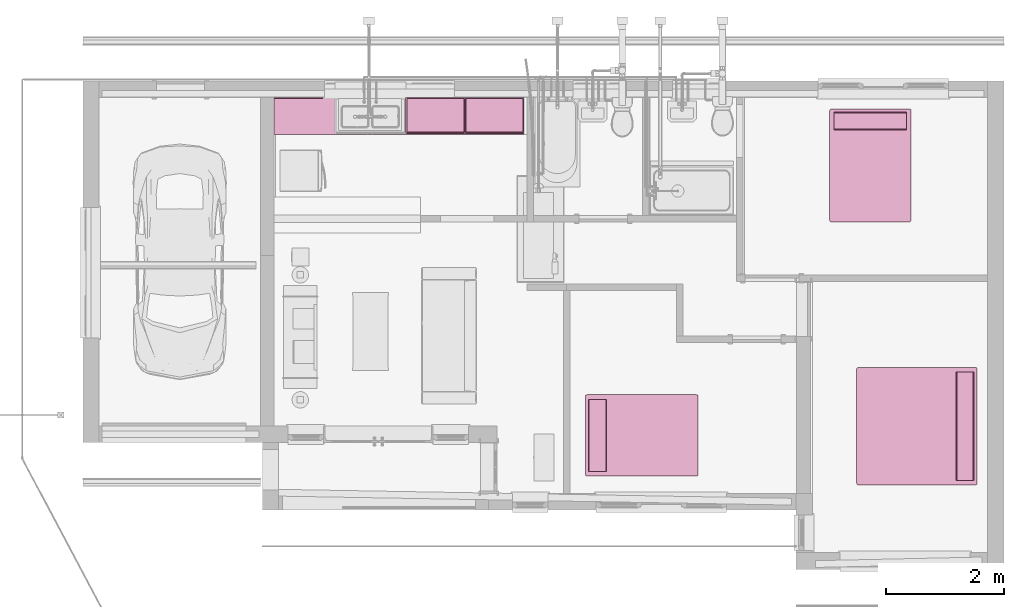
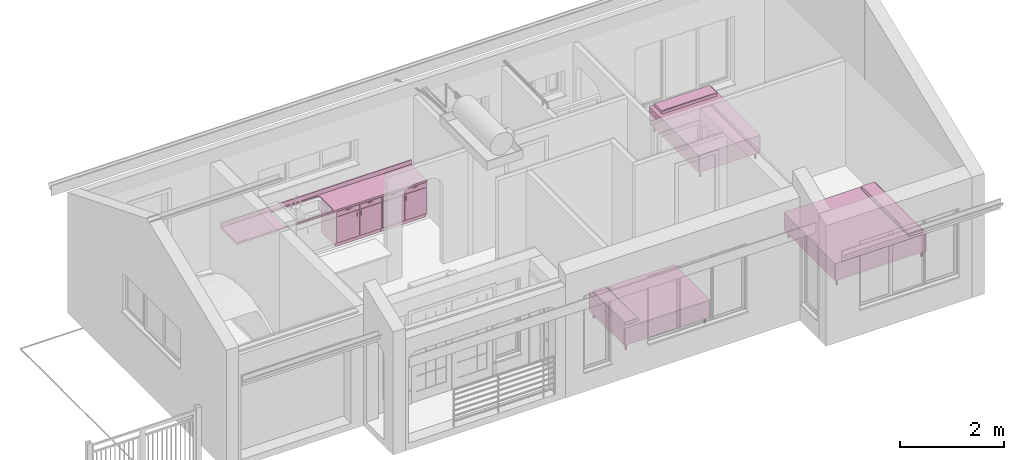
# One storey, part 37 of 41: 6 furnishings, 1 opening.
"""IFC2X3 building model written with IfcOpenShell, lengths in millimetres."""

from ifc_helpers import new_model, entity, si_unit, converted_unit, derived_unit, direction, frame, frame_2d, origin, origin_2d_with_axis, place, context, subcontext, project, spatial, polyline, circle_curve, parameter, trimmed, segment, composite_curve, circle, outline, extrude, faceted_brep, source, transform, mapped, material, material_list, type_object, type_shapes, element, save


model = new_model("IFC2X3")

# Units and contexts
model_context = context("Model", 3, precision=0.01, world=origin(), true_north=direction((6.12303176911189e-17, 1.0)))
body_context = subcontext(model_context, "Body", "Model", "MODEL_VIEW")
ifc_project = project(units=[si_unit("LENGTHUNIT", "METRE", prefix="MILLI"), si_unit("AREAUNIT", "SQUARE_METRE"), si_unit("VOLUMEUNIT", "CUBIC_METRE"), converted_unit("PLANEANGLEUNIT", "DEGREE", entity("IfcRatioMeasure", 0.0174532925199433), si_unit("PLANEANGLEUNIT", "RADIAN"), dimensions=[0, 0, 0, 0, 0, 0, 0]), si_unit("MASSUNIT", "GRAM", prefix="KILO"), derived_unit("MASSDENSITYUNIT", [(si_unit("MASSUNIT", "GRAM", prefix="KILO"), 1), (si_unit("LENGTHUNIT", "METRE"), -3)]), si_unit("TIMEUNIT", "SECOND"), si_unit("FREQUENCYUNIT", "HERTZ"), si_unit("THERMODYNAMICTEMPERATUREUNIT", "DEGREE_CELSIUS"), derived_unit("THERMALTRANSMITTANCEUNIT", [(si_unit("MASSUNIT", "GRAM", prefix="KILO"), 1), (si_unit("THERMODYNAMICTEMPERATUREUNIT", "KELVIN"), -1), (si_unit("TIMEUNIT", "SECOND"), -3)]), derived_unit("VOLUMETRICFLOWRATEUNIT", [(si_unit("LENGTHUNIT", "METRE"), 3), (si_unit("TIMEUNIT", "SECOND"), -1)]), si_unit("ELECTRICCURRENTUNIT", "AMPERE"), si_unit("ELECTRICVOLTAGEUNIT", "VOLT"), si_unit("POWERUNIT", "WATT"), si_unit("FORCEUNIT", "NEWTON", prefix="KILO"), si_unit("ILLUMINANCEUNIT", "LUX"), si_unit("LUMINOUSFLUXUNIT", "LUMEN"), si_unit("LUMINOUSINTENSITYUNIT", "CANDELA"), derived_unit("USERDEFINED", [(si_unit("MASSUNIT", "GRAM", prefix="KILO"), -1), (si_unit("LENGTHUNIT", "METRE"), -2), (si_unit("TIMEUNIT", "SECOND"), 3), (si_unit("LUMINOUSFLUXUNIT", "LUMEN"), 1)]), derived_unit("LINEARVELOCITYUNIT", [(si_unit("LENGTHUNIT", "METRE"), 1), (si_unit("TIMEUNIT", "SECOND"), -1)]), si_unit("PRESSUREUNIT", "PASCAL"), derived_unit("USERDEFINED", [(si_unit("LENGTHUNIT", "METRE"), -2), (si_unit("MASSUNIT", "GRAM", prefix="KILO"), 1), (si_unit("TIMEUNIT", "SECOND"), -2)])], contexts=[model_context])

# Site, building, storey, space
site_placement = place(None, origin())
site = spatial("IfcSite", under=ifc_project, at=site_placement, Name="Surface", CompositionType="ELEMENT")
building_placement = place(site_placement, origin())
building = spatial("IfcBuilding", under=site, at=building_placement, CompositionType="ELEMENT")
storey_placement = place(building_placement, frame((0.0, 0.0, 300.0)))
storey = spatial("IfcBuildingStorey", under=building, at=storey_placement, Name="F.F.L", CompositionType="ELEMENT", Elevation=300.0)
space_1_placement = place(storey_placement, origin())
space_1 = spatial("IfcSpace", under=storey, at=space_1_placement, Name="7", CompositionType="ELEMENT", InteriorOrExteriorSpace="INTERNAL")

# Furnishing
ifc_material_1 = material(Name="Textile - White")
ifc_material_2 = material(Name="Metal - Chrome")
ifc_material_list_1 = material_list([ifc_material_1, ifc_material_2])
ifc_material_list_2 = material_list([ifc_material_1, ifc_material_2])
furniture_type_1 = type_object("IfcFurnitureType", Name="1372 x 1905mm - Double", AssemblyPlace="NOTDEFINED", material=ifc_material_list_2)
shared_shape_1 = source(origin(), body_context, "Body", "SweptSolid", [
    extrude(outline(composite_curve([segment(trimmed(circle_curve(frame_2d((-660.599999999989, -927.100000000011), x_axis=(1.0, 0.0)), 25.4000000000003), [parameter(180.0)], [parameter(270.0)], True, "PARAMETER"), True, "CONTINUOUS"), segment(polyline([(-660.599999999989, -952.500000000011), (660.60000000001, -952.500000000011)]), True, "CONTINUOUS"), segment(trimmed(circle_curve(frame_2d((660.60000000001, -927.10000000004), x_axis=(1.0, 0.0)), 25.3999999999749), [parameter(270.0)], [parameter(360.0)], True, "PARAMETER"), True, "CONTINUOUS"), segment(polyline([(686.0, -927.10000000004), (686.0, 927.100000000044)]), True, "CONTINUOUS"), segment(trimmed(circle_curve(frame_2d((660.600000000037, 927.100000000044), x_axis=(1.0, 0.0)), 25.3999999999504), [parameter(3.05333249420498e-13)], [parameter(89.9999999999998)], True, "PARAMETER"), True, "CONTINUOUS"), segment(polyline([(660.600000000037, 952.499999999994), (-660.600000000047, 952.499999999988)]), True, "CONTINUOUS"), segment(trimmed(circle_curve(frame_2d((-660.600000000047, 927.100000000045), x_axis=(1.0, 0.0)), 25.3999999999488), [parameter(90.0000000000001)], [parameter(179.999999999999)], True, "PARAMETER"), True, "CONTINUOUS"), segment(polyline([(-686.0, 927.100000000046), (-686.0, -927.100000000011)]), True, "CONTINUOUS")], self_intersect=False)), frame((271.488524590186, -45.5950819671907, 152.4)), (0.0, 0.0, 1.0), 203.2),
    extrude(outline(composite_curve([segment(polyline([(-152.4, -42.3333333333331), (152.4, -42.3333333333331)]), True, "CONTINUOUS"), segment(polyline([(152.4, -42.3333333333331), (152.4, 8.4666666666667)]), True, "CONTINUOUS"), segment(trimmed(circle_curve(frame_2d((127.0, 8.4666666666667), x_axis=(-1.0, 0.0)), 25.4), [parameter(180.0)], [parameter(270.0)], True, "PARAMETER"), True, "CONTINUOUS"), segment(polyline([(127.0, 33.8666666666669), (-127.0, 33.8666666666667)]), True, "CONTINUOUS"), segment(trimmed(circle_curve(frame_2d((-127.0, 8.46666666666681), x_axis=(-1.0, 0.0)), 25.4), [parameter(270.0)], [parameter(0.0)], True, "PARAMETER"), True, "CONTINUOUS"), segment(polyline([(-152.4, 8.46666666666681), (-152.4, -42.3333333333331)]), True, "CONTINUOUS")], self_intersect=False)), frame((-338.311475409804, 703.704918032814, 601.133333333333), z_axis=(1.0, 0.0, 0.0), x_axis=(0.0, 1.0, 0.0)), (0.0, 0.0, 1.0), 1219.59999999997),
    extrude(circle(Radius=25.3999999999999, at=origin_2d_with_axis()), frame((881.288524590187, -921.89508196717, 0.0)), (0.0, 0.0, 1.0), 152.4),
    extrude(circle(Radius=25.4000000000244, at=frame_2d((-1.35358391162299e-13, -1.35358391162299e-13), x_axis=(1.0, 0.0))), frame((881.288524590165, 830.704918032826, 0.0)), (0.0, 0.0, 1.0), 152.4),
    extrude(circle(Radius=25.3999999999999, at=frame_2d((0.0, -1.35358391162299e-13), x_axis=(1.0, 0.0))), frame((-338.311475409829, 830.704918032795, 0.0)), (0.0, 0.0, 1.0), 152.4),
    extrude(circle(Radius=25.4000000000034, at=origin_2d_with_axis()), frame((-338.311475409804, -921.895081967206, 0.0)), (0.0, 0.0, 1.0), 152.4),
    extrude(outline(composite_curve([segment(trimmed(circle_curve(frame_2d((-660.600000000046, 927.100000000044), x_axis=(1.0, 0.0)), 25.3999999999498), [parameter(90.0000000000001)], [parameter(180.0)], True, "PARAMETER"), True, "CONTINUOUS"), segment(polyline([(-686.0, 927.100000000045), (-686.0, -927.100000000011)]), True, "CONTINUOUS"), segment(trimmed(circle_curve(frame_2d((-660.599999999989, -927.100000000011), x_axis=(1.0, 0.0)), 25.4000000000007), [parameter(180.0)], [parameter(270.0)], True, "PARAMETER"), True, "CONTINUOUS"), segment(polyline([(-660.599999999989, -952.500000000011), (660.60000000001, -952.500000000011)]), True, "CONTINUOUS"), segment(trimmed(circle_curve(frame_2d((660.60000000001, -927.10000000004), x_axis=(1.0, 0.0)), 25.3999999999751), [parameter(270.0)], [parameter(0.0)], True, "PARAMETER"), True, "CONTINUOUS"), segment(polyline([(686.0, -927.10000000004), (686.0, 927.100000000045)]), True, "CONTINUOUS"), segment(trimmed(circle_curve(frame_2d((660.600000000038, 927.100000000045), x_axis=(1.0, 0.0)), 25.3999999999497), [parameter(360.0)], [parameter(89.9999999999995)], True, "PARAMETER"), True, "CONTINUOUS"), segment(polyline([(660.600000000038, 952.499999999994), (-660.600000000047, 952.499999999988)]), True, "CONTINUOUS")], self_intersect=False)), frame((271.488524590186, -45.5950819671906, 355.6)), (0.0, 0.0, 1.0), 203.2),
])
type_shapes(furniture_type_1, [shared_shape_1])
furnishing_1_placement = place(space_1_placement, frame((-2698.18093016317, 4570.06224268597, 0.0), z_axis=(0.0, 0.0, 1.0), x_axis=(0.0, 1.0, 0.0)))
element("IfcFurnishingElement", 1, at=furnishing_1_placement, inside=space_1, type_object=furniture_type_1, material=ifc_material_list_1, Name="M_Bed-Standard:1372 x 1905mm - Double", ObjectType="1372 x 1905mm - Double", context=body_context, shape_type="MappedRepresentation", body=[
    mapped(shared_shape_1, transform((0.0, 0.0, 0.0), scale=1.0)),
])

# Space
space_2_placement = place(storey_placement, origin())
space_2 = spatial("IfcSpace", under=storey, at=space_2_placement, Name="5", CompositionType="ELEMENT", InteriorOrExteriorSpace="INTERNAL")

# Furnishing
ifc_material_list_3 = material_list([ifc_material_1, ifc_material_2])
furnishing_2_placement = place(space_2_placement, frame((935.636305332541, 9443.93517112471, 0.0)))
element("IfcFurnishingElement", 2, at=furnishing_2_placement, inside=space_2, type_object=furniture_type_1, material=ifc_material_list_3, Name="M_Bed-Standard:1372 x 1905mm - Double", ObjectType="1372 x 1905mm - Double", context=body_context, shape_type="MappedRepresentation", body=[
    mapped(shared_shape_1, transform((0.0, 0.0, 0.0), scale=1.0)),
])

# Space
space_3_placement = place(storey_placement, origin())
space_3 = spatial("IfcSpace", under=storey, at=space_3_placement, Name="9", CompositionType="ELEMENT", InteriorOrExteriorSpace="INTERNAL")

# Furnishing
ifc_material_list_4 = material_list([ifc_material_1, ifc_material_2])
ifc_material_list_5 = material_list([ifc_material_1, ifc_material_2])
furniture_type_2 = type_object("IfcFurnitureType", Name="1981 x 2032mm - King", AssemblyPlace="NOTDEFINED", material=ifc_material_list_5)
shared_shape_2 = source(origin(), body_context, "Body", "SweptSolid", [
    extrude(outline(composite_curve([segment(trimmed(circle_curve(frame_2d((-965.099999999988, -990.600000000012), x_axis=(1.0, 0.0)), 25.4000000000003), [parameter(180.0)], [parameter(270.0)], True, "PARAMETER"), True, "CONTINUOUS"), segment(polyline([(-965.099999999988, -1016.0), (965.100000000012, -1016.0)]), True, "CONTINUOUS"), segment(trimmed(circle_curve(frame_2d((965.100000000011, -990.600000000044), x_axis=(1.0, 0.0)), 25.3999999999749), [parameter(270.0)], [parameter(360.0)], True, "PARAMETER"), True, "CONTINUOUS"), segment(polyline([(990.499999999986, -990.600000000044), (990.49999999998, 990.600000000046)]), True, "CONTINUOUS"), segment(trimmed(circle_curve(frame_2d((965.100000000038, 990.600000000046), x_axis=(1.0, 0.0)), 25.3999999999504), [parameter(3.05333249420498e-13)], [parameter(89.9999999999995)], True, "PARAMETER"), True, "CONTINUOUS"), segment(polyline([(965.100000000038, 1016.0), (-965.100000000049, 1016.0)]), True, "CONTINUOUS"), segment(trimmed(circle_curve(frame_2d((-965.100000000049, 990.600000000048), x_axis=(1.0, 0.0)), 25.3999999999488), [parameter(90.0000000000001)], [parameter(180.0)], True, "PARAMETER"), True, "CONTINUOUS"), segment(polyline([(-990.499999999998, 990.600000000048), (-990.499999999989, -990.600000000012)]), True, "CONTINUOUS")], self_intersect=False)), frame((271.488524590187, -45.5950819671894, 152.4)), (0.0, 0.0, 1.0), 203.2),
    extrude(outline(composite_curve([segment(polyline([(-152.4, -42.3333333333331), (152.4, -42.3333333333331)]), True, "CONTINUOUS"), segment(polyline([(152.4, -42.3333333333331), (152.4, 8.4666666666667)]), True, "CONTINUOUS"), segment(trimmed(circle_curve(frame_2d((127.0, 8.4666666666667), x_axis=(-1.0, 0.0)), 25.4), [parameter(180.0)], [parameter(270.0)], True, "PARAMETER"), True, "CONTINUOUS"), segment(polyline([(127.0, 33.8666666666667), (-127.0, 33.8666666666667)]), True, "CONTINUOUS"), segment(trimmed(circle_curve(frame_2d((-127.0, 8.46666666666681), x_axis=(-1.0, 0.0)), 25.4), [parameter(270.0)], [parameter(0.0)], True, "PARAMETER"), True, "CONTINUOUS"), segment(polyline([(-152.4, 8.46666666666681), (-152.4, -42.3333333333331)]), True, "CONTINUOUS")], self_intersect=False)), frame((-642.811475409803, 767.204918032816, 601.133333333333), z_axis=(1.0, 0.0, 0.0), x_axis=(0.0, 1.0, 0.0)), (0.0, 0.0, 1.0), 1828.59999999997),
    extrude(circle(Radius=25.3999999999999, at=frame_2d((0.0, -1.35358391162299e-13), x_axis=(1.0, 0.0))), frame((1185.78852459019, -985.395081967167, 0.0)), (0.0, 0.0, 1.0), 152.4),
    extrude(circle(Radius=25.4000000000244, at=frame_2d((-1.35358391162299e-13, -1.35358391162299e-13), x_axis=(1.0, 0.0))), frame((1185.78852459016, 894.204918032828, 0.0)), (0.0, 0.0, 1.0), 152.4),
    extrude(circle(Radius=25.3999999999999, at=frame_2d((0.0, -1.35358391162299e-13), x_axis=(1.0, 0.0))), frame((-642.811475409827, 894.204918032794, 0.0)), (0.0, 0.0, 1.0), 152.4),
    extrude(circle(Radius=25.4000000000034, at=frame_2d((0.0, -1.35358391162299e-13), x_axis=(1.0, 0.0))), frame((-642.811475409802, -985.395081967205, 0.0)), (0.0, 0.0, 1.0), 152.4),
    extrude(outline(composite_curve([segment(trimmed(circle_curve(frame_2d((-965.100000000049, 990.600000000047), x_axis=(1.0, 0.0)), 25.3999999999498), [parameter(90.0000000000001)], [parameter(180.0)], True, "PARAMETER"), True, "CONTINUOUS"), segment(polyline([(-990.499999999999, 990.600000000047), (-990.499999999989, -990.600000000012)]), True, "CONTINUOUS"), segment(trimmed(circle_curve(frame_2d((-965.099999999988, -990.600000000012), x_axis=(1.0, 0.0)), 25.4000000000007), [parameter(180.0)], [parameter(270.0)], True, "PARAMETER"), True, "CONTINUOUS"), segment(polyline([(-965.099999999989, -1016.0), (965.100000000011, -1016.0)]), True, "CONTINUOUS"), segment(trimmed(circle_curve(frame_2d((965.100000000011, -990.600000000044), x_axis=(1.0, 0.0)), 25.3999999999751), [parameter(269.999999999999)], [parameter(360.0)], True, "PARAMETER"), True, "CONTINUOUS"), segment(polyline([(990.499999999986, -990.600000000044), (990.499999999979, 990.600000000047)]), True, "CONTINUOUS"), segment(trimmed(circle_curve(frame_2d((965.100000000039, 990.600000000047), x_axis=(1.0, 0.0)), 25.3999999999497), [parameter(360.0)], [parameter(89.9999999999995)], True, "PARAMETER"), True, "CONTINUOUS"), segment(polyline([(965.100000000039, 1016.0), (-965.100000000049, 1016.0)]), True, "CONTINUOUS")], self_intersect=False)), frame((271.488524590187, -45.5950819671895, 355.6)), (0.0, 0.0, 1.0), 203.2),
])
type_shapes(furniture_type_2, [shared_shape_2])
furnishing_3_placement = place(space_3_placement, frame((2038.2199118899, 5267.59818562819, 0.0), z_axis=(0.0, 0.0, 1.0), x_axis=(0.0, -1.0, 0.0)))
element("IfcFurnishingElement", 3, at=furnishing_3_placement, inside=space_3, type_object=furniture_type_2, material=ifc_material_list_4, Name="M_Bed-Standard:1981 x 2032mm - King", ObjectType="1981 x 2032mm - King", context=body_context, shape_type="MappedRepresentation", body=[
    mapped(shared_shape_2, transform((0.0, 0.0, 0.0), scale=1.0)),
])

# Space
space_4_placement = place(storey_placement, origin())
space_4 = spatial("IfcSpace", under=storey, at=space_4_placement, Name="2", CompositionType="ELEMENT", InteriorOrExteriorSpace="INTERNAL")

# Furnishings
ifc_material_3 = material(Name="Cabinets")
ifc_material_4 = material(Name="Cabinets - Handles")
ifc_material_list_6 = material_list([ifc_material_3, ifc_material_4])
ifc_material_list_7 = material_list([ifc_material_3, ifc_material_4])
furniture_type_3 = type_object("IfcFurnitureType", Name="1000mm", AssemblyPlace="NOTDEFINED", material=ifc_material_list_7)
shared_shape_3 = source(origin(), body_context, "Body", "Brep", [
    faceted_brep([(499.687704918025, -580.949999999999, 860.0), (499.687704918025, -580.949999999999, 100.0), (-462.212295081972, -580.949999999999, 100.0), (-462.212295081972, -580.949999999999, 860.0), (-481.262295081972, -600.0, 860.0), (518.737704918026, -600.0, 860.0), (-481.262295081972, -600.0, 100.0), (518.737704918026, -600.0, 100.0), (-462.212295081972, -565.0, 100.0), (-462.212295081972, -19.0500000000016, 100.0), (-462.212295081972, -19.0500000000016, 860.0), (-481.262295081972, 0.0, 860.0), (-481.262295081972, 0.0, 0.0), (-481.262295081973, -565.0, 0.0), (-481.262295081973, -565.0, 100.0), (499.687704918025, -19.0500000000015, 100.0), (499.687704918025, -19.0500000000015, 860.0), (518.737704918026, 0.0, 860.0), (518.737704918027, 0.0, 0.0), (499.687704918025, -565.0, 100.0), (518.737704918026, -565.0, 100.0), (518.737704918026, -565.0, 0.0)], [[[0, 1, 2, 3]], [[0, 3, 4, 5]], [[5, 4, 6, 7]], [[2, 1, 7, 6]], [[3, 2, 8, 9, 10]], [[4, 3, 10, 11]], [[6, 4, 11, 12, 13, 14]], [[2, 6, 14, 8]], [[10, 9, 15, 16]], [[11, 10, 16, 17]], [[12, 11, 17, 18]], [[1, 0, 16, 15, 19]], [[0, 5, 17, 16]], [[5, 7, 20, 21, 18, 17]], [[7, 1, 19, 20]], [[8, 19, 15, 9]], [[18, 21, 13, 12]], [[13, 21, 20, 19, 8, 14]]]),
    faceted_brep([(310.012704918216, -625.400000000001, 815.550000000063), (208.412704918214, -625.4, 815.550000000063), (208.412704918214, -625.4, 802.850000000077), (310.012704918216, -625.400000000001, 802.850000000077), (310.012704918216, -612.700000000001, 815.550000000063), (208.412704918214, -612.7, 815.550000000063), (208.412704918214, -612.7, 802.850000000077), (310.012704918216, -612.700000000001, 802.850000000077)], [[[0, 1, 2, 3]], [[1, 0, 4, 5]], [[2, 1, 5, 6]], [[3, 2, 6, 7]], [[0, 3, 7, 4]], [[4, 7, 6, 5]]]),
    faceted_brep([(-170.937295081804, -612.699999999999, 815.550000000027), (-170.937295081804, -612.699999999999, 802.850000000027), (-272.537295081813, -612.699999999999, 802.850000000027), (-272.537295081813, -612.699999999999, 815.550000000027), (-272.537295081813, -625.399999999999, 815.550000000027), (-170.937295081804, -625.399999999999, 815.550000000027), (-272.537295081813, -625.399999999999, 802.850000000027), (-170.937295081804, -625.399999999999, 802.850000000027)], [[[0, 1, 2, 3]], [[4, 5, 0, 3]], [[6, 4, 3, 2]], [[7, 6, 2, 1]], [[5, 7, 1, 0]], [[5, 4, 6, 7]]]),
    faceted_brep([(-28.8872950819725, -625.4, 682.200000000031), (-16.1872950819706, -625.4, 682.200000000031), (-16.1872950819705, -612.7, 682.200000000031), (-28.8872950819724, -612.7, 682.200000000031), (-28.8872950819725, -625.4, 580.600000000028), (-28.8872950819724, -612.7, 580.600000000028), (-16.1872950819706, -625.4, 580.600000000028), (-16.1872950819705, -612.7, 580.600000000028)], [[[0, 1, 2, 3]], [[4, 0, 3, 5]], [[6, 4, 5, 7]], [[1, 6, 7, 2]], [[2, 7, 5, 3]], [[1, 0, 4, 6]]]),
    faceted_brep([(53.6627049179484, -625.4, 682.200000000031), (66.36270491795, -625.4, 682.200000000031), (66.3627049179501, -612.7, 682.200000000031), (53.6627049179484, -612.7, 682.200000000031), (53.6627049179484, -625.4, 580.600000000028), (53.6627049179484, -612.7, 580.600000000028), (66.36270491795, -625.4, 580.600000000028), (66.3627049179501, -612.7, 580.600000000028)], [[[0, 1, 2, 3]], [[4, 0, 3, 5]], [[6, 4, 5, 7]], [[1, 6, 7, 2]], [[2, 7, 5, 3]], [[1, 0, 4, 6]]]),
    faceted_brep([(499.687704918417, -612.700000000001, 840.950000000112), (28.2627049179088, -612.7, 840.950000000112), (28.2627049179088, -612.7, 739.350000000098), (499.687704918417, -612.700000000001, 739.350000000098), (499.687704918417, -600.0, 840.950000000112), (28.2627049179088, -600.0, 840.950000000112), (28.2627049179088, -600.0, 739.350000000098), (499.687704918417, -600.0, 739.350000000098)], [[[0, 1, 2, 3]], [[1, 0, 4, 5]], [[2, 1, 5, 6]], [[3, 2, 6, 7]], [[0, 3, 7, 4]], [[4, 7, 6, 5]]]),
    faceted_brep([(9.21270491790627, -600.0, 840.950000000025), (9.21270491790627, -600.0, 739.35000000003), (-462.212295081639, -600.0, 739.35000000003), (-462.212295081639, -600.0, 840.950000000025), (-462.212295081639, -612.699999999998, 840.950000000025), (9.2127049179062, -612.7, 840.950000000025), (-462.212295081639, -612.699999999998, 739.35000000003), (9.2127049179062, -612.7, 739.35000000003)], [[[0, 1, 2, 3]], [[4, 5, 0, 3]], [[6, 4, 3, 2]], [[7, 6, 2, 1]], [[5, 7, 1, 0]], [[5, 4, 6, 7]]]),
    faceted_brep([(-462.212295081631, -612.699999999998, 720.30000000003), (9.21270491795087, -612.7, 720.30000000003), (9.21270491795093, -600.0, 720.30000000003), (-462.212295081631, -600.0, 720.30000000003), (-462.212295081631, -612.699999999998, 119.049999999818), (-462.212295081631, -600.0, 119.049999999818), (9.21270491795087, -612.7, 119.049999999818), (9.21270491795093, -600.0, 119.049999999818)], [[[0, 1, 2, 3]], [[4, 0, 3, 5]], [[6, 4, 5, 7]], [[1, 6, 7, 2]], [[2, 7, 5, 3]], [[1, 0, 4, 6]]]),
    faceted_brep([(28.2627049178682, -612.7, 720.30000000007), (499.687704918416, -612.700000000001, 720.30000000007), (499.687704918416, -600.0, 720.30000000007), (28.2627049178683, -600.0, 720.30000000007), (28.2627049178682, -612.7, 119.049999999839), (28.2627049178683, -600.0, 119.049999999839), (499.687704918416, -612.700000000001, 119.049999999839), (499.687704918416, -600.0, 119.049999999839)], [[[0, 1, 2, 3]], [[4, 0, 3, 5]], [[6, 4, 5, 7]], [[1, 6, 7, 2]], [[2, 7, 5, 3]], [[1, 0, 4, 6]]]),
    faceted_brep([(499.687704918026, -19.0500000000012, 119.049999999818), (-462.212295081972, -19.0500000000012, 119.049999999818), (-462.212295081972, -580.949999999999, 119.049999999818), (499.687704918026, -580.949999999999, 119.049999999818), (499.687704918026, -19.0500000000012, 100.0), (499.687704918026, -580.949999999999, 100.0), (-462.212295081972, -580.949999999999, 100.0), (-462.212295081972, -19.0500000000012, 100.0)], [[[0, 1, 2, 3]], [[4, 5, 6, 7]], [[1, 0, 4, 7]], [[2, 1, 7, 6]], [[3, 2, 6, 5]], [[0, 3, 5, 4]]]),
])
type_shapes(furniture_type_3, [shared_shape_3])
furnishing_4_placement = place(space_4_placement, frame((-6155.61287499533, 10545.8400891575, 0.0)))
element("IfcFurnishingElement", 4, at=furnishing_4_placement, inside=space_4, type_object=furniture_type_3, material=ifc_material_list_6, Name="M_Base Cabinet-Double Door & 2 Drawer:1000mm", ObjectType="1000mm", context=body_context, shape_type="MappedRepresentation", body=[
    mapped(shared_shape_3, transform((0.0, 0.0, 0.0), scale=1.0)),
])
ifc_material_list_8 = material_list([ifc_material_3, ifc_material_4])
furnishing_5_placement = place(space_4_placement, frame((-5155.61287499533, 10545.8400891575, 0.0)))
element("IfcFurnishingElement", 5, at=furnishing_5_placement, inside=space_4, type_object=furniture_type_3, material=ifc_material_list_8, Name="M_Base Cabinet-Double Door & 2 Drawer:1000mm", ObjectType="1000mm", context=body_context, shape_type="MappedRepresentation", body=[
    mapped(shared_shape_3, transform((0.0, 0.0, 0.0), scale=1.0)),
])

# Furnishing, opening
ifc_material_5 = material(Name="Concrete, Lightweight")
furniture_type_4 = type_object("IfcFurnitureType", Name="600mm Depth", AssemblyPlace="NOTDEFINED", material=ifc_material_5)
shared_shape_4 = source(origin(), body_context, "Body", "SweptSolid", [
    extrude(outline(polyline([(-60.5333333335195, -214.683333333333), (81.0666666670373, -214.683333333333), (81.0666666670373, -195.633333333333), (-20.5333333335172, -195.633333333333), (-20.5333333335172, 410.316666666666), (-60.5333333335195, 410.316666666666), (-60.5333333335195, -214.683333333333)])), frame((-1200.46229508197, -214.683333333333, 920.533333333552), z_axis=(1.0, 0.0, 0.0), x_axis=(0.0, 0.0, 1.0)), (0.0, 0.0, 1.0), 4220.0),
])
type_shapes(furniture_type_4, [shared_shape_4])
furnishing_6_placement = place(space_4_placement, frame((-7656.41287499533, 10545.8400891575, 0.0)))
furnishing_6 = element("IfcFurnishingElement", 6, at=furnishing_6_placement, inside=space_4, type_object=furniture_type_4, material=ifc_material_5, Name="M_Counter Top w Sink Hole:600mm Depth", ObjectType="600mm Depth", context=body_context, shape_type="MappedRepresentation", body=[
    mapped(shared_shape_4, transform((0.0, 0.0, 0.0), scale=1.0)),
])
opening_placement = place(storey_placement, frame((-7656.41287499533, 10545.8400891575, 300.0)))
element("IfcOpeningElement", 7, at=opening_placement, cuts=furnishing_6, Name="M_Counter Top w Sink Hole:600mm Depth:1", ObjectType="Opening", context=body_context, shape_type="SweptSolid", body=[
    extrude(outline(composite_curve([segment(polyline([(-494.400000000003, -282.700000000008), (494.399999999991, -282.700000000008)]), True, "CONTINUOUS"), segment(trimmed(circle_curve(frame_2d((494.399999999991, -231.900000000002), x_axis=(1.0, 0.0)), 50.8000000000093), [parameter(270.000000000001)], [parameter(1.06866637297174e-12)], True, "PARAMETER"), True, "CONTINUOUS"), segment(polyline([(545.2, -231.900000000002), (545.199999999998, 231.900000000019)]), True, "CONTINUOUS"), segment(trimmed(circle_curve(frame_2d((494.400000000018, 231.900000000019), x_axis=(1.0, 0.0)), 50.7999999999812), [parameter(360.0)], [parameter(90.0000000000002)], True, "PARAMETER"), True, "CONTINUOUS"), segment(polyline([(494.400000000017, 282.7), (-494.400000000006, 282.700000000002)]), True, "CONTINUOUS"), segment(trimmed(circle_curve(frame_2d((-494.400000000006, 231.90000000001), x_axis=(1.0, 0.0)), 50.7999999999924), [parameter(90.0000000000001)], [parameter(180.0)], True, "PARAMETER"), True, "CONTINUOUS"), segment(polyline([(-545.199999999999, 231.90000000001), (-545.199999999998, -231.900000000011)]), True, "CONTINUOUS"), segment(trimmed(circle_curve(frame_2d((-494.400000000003, -231.900000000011), x_axis=(1.0, 0.0)), 50.799999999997), [parameter(180.0)], [parameter(270.0)], True, "PARAMETER"), True, "CONTINUOUS")], self_intersect=False)), frame((419.537704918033, -330.0, 600.0), z_axis=(0.0, 0.0, -1.0), x_axis=(1.0, 0.0, 0.0)), (0.0, 0.0, 1.0), 40.0000000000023),
])

save(model, "model.ifc")
